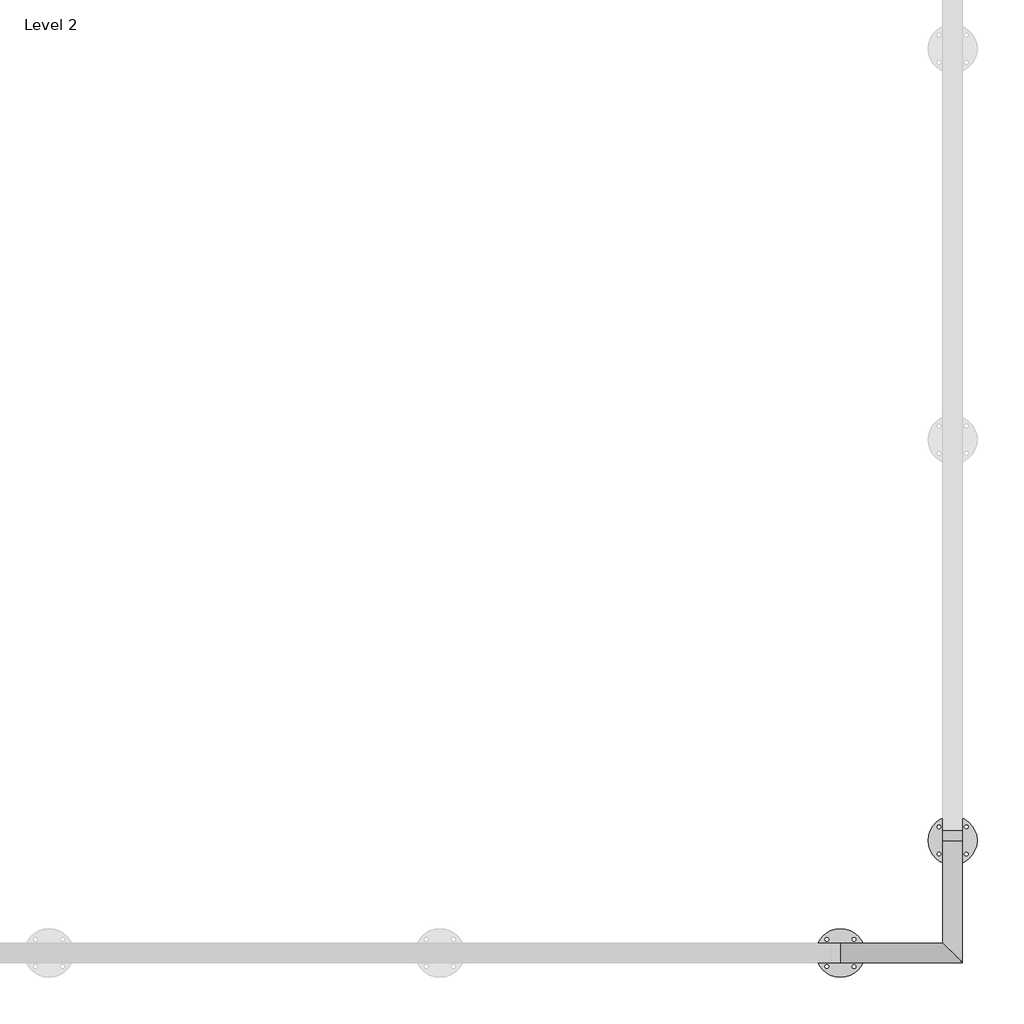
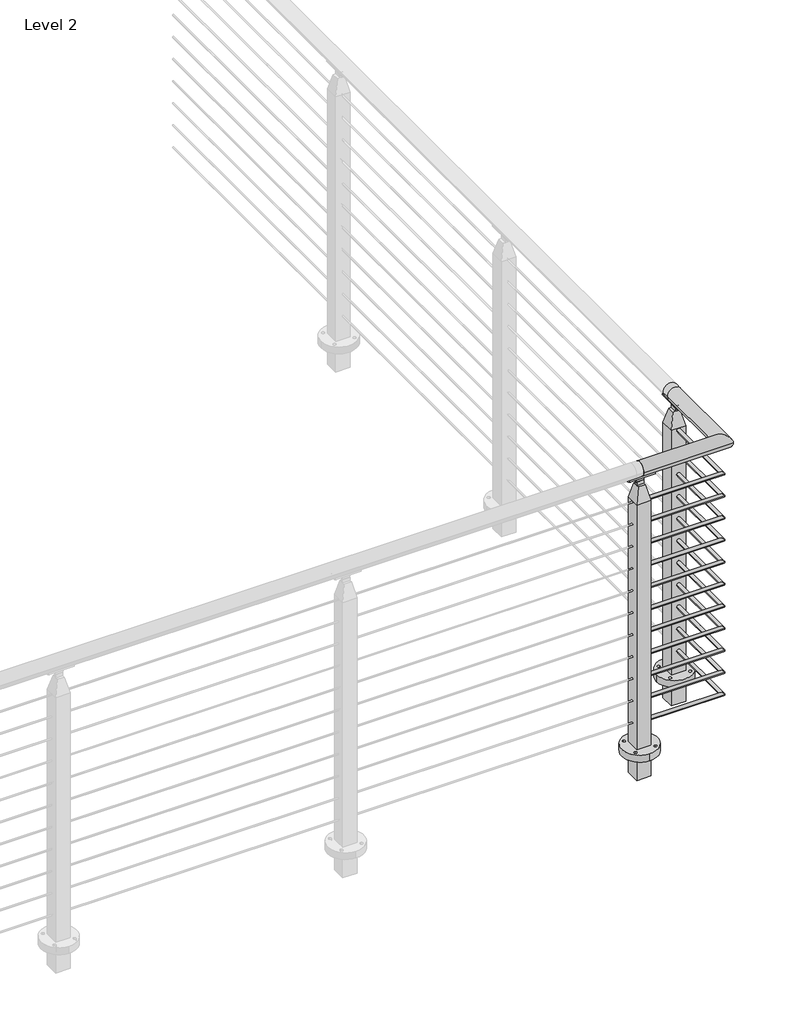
# One storey, part 16 of 17: 1 railing.
"""IFC4 building model written with IfcOpenShell, lengths in millimetres."""

from ifc_helpers import new_model, si_unit, point, frame, frame_2d, origin, place, context, project, spatial, polyline, circle_curve, ellipse_curve, trimmed, segment, composite_curve, outline, extrude, faceted_brep, element, save
from ifc_brep_helpers import plane_surface, cylinder_surface, revolved_surface, advanced_brep

model = new_model("IFC4")

# Units and contexts
model_context = context("Model", 3, world=origin())
ifc_project = project(units=[si_unit("LENGTHUNIT", "METRE", prefix="MILLI")], contexts=[model_context])

# Site, building, storey
site = spatial("IfcSite", under=ifc_project)
building = spatial("IfcBuilding", under=site)
storey = spatial("IfcBuildingStorey", under=building, Name="Level 2", Elevation=3048.0)

# Railing
placement = place(None, origin())
element("IfcRailing", 1, ObjectType="VIVA-CUBE-Cable-Core Mount-Corner", at=placement, inside=storey, context=model_context, shape_type="SolidModel", body=[
    advanced_brep(
    [(70897.8936734, -52130.1426165, 4102.1), (70897.8936734, -52079.3426165, 4102.1), (71215.3936734, -52130.1426165, 4102.1), (71164.5936734, -52079.3426165, 4102.1), (71215.3936734, -51786.8457415, 4102.1), (71164.5936734, -51786.8457415, 4102.1), (71164.5936734, -51812.6426165, 4102.1), (71215.3936734, -51812.6426165, 4102.1)],
    [
        (0, 1, circle_curve(frame((70897.8936734, -52104.7426165, 4102.1), z_axis=(-1.0, 0.0, 0.0), x_axis=(0.0, 1.0, 0.0)), 25.4)),
        (1, 0, circle_curve(frame((70897.8936734, -52104.7426165, 4102.1), z_axis=(-1.0, 0.0, 0.0), x_axis=(0.0, 1.0, 0.0)), 25.4)),
        (0, 2),
        (2, 3, ellipse_curve(frame((71189.9936734, -52104.7426165, 4102.1), z_axis=(-0.7071067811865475, -0.7071067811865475, 0.0), x_axis=(-0.7071067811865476, 0.7071067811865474, 0.0)), 35.9210245, 25.4)),
        (3, 1),
        (3, 2, ellipse_curve(frame((71189.9936734, -52104.7426165, 4102.1), z_axis=(-0.7071067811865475, -0.7071067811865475, 0.0), x_axis=(-0.7071067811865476, 0.7071067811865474, 0.0)), 35.9210245, 25.4)),
        (4, 5, circle_curve(frame((71189.9936734, -51786.8457415, 4102.1), z_axis=(0.0, 1.0, 0.0), x_axis=(-1.0, 0.0, 0.0)), 25.4)),
        (5, 4, circle_curve(frame((71189.9936734, -51786.8457415, 4102.1), z_axis=(0.0, 1.0, 0.0), x_axis=(-1.0, 0.0, 0.0)), 25.4)),
        (6, 7, circle_curve(frame((71189.9936734, -51812.6426165, 4102.1), z_axis=(0.0, 1.0, 0.0), x_axis=(-1.0, 0.0, 0.0)), 25.4)),
        (7, 4),
        (5, 6),
        (7, 6, circle_curve(frame((71189.9936734, -51812.6426165, 4102.1), z_axis=(0.0, 1.0, 0.0), x_axis=(-1.0, 0.0, 0.0)), 25.4)),
        (2, 7),
        (6, 3),
    ],
    [
        plane_surface(frame((70897.8936734, -52104.7426165, 4127.5), z_axis=(-1.0, 0.0, 0.0), x_axis=(0.0, 1.0, 0.0))),
        cylinder_surface(frame((70897.8936734, -52104.7426165, 4102.1), z_axis=(-1.0, 0.0, 0.0), x_axis=(0.0, 1.0, 0.0)), 25.4),
        plane_surface(frame((71189.9936734, -51786.8457415, 4127.5), z_axis=(0.0, 1.0, 0.0), x_axis=(0.0, 0.0, 1.0))),
        cylinder_surface(frame((71189.9936734, -51812.6426165, 4102.1), z_axis=(0.0, -1.0, 0.0), x_axis=(-1.0, 0.0, 0.0)), 25.4),
        cylinder_surface(frame((71189.9936734, -52104.7426165, 4102.1), z_axis=(0.0, -1.0, 0.0), x_axis=(-1.0, 0.0, 0.0)), 25.4),
    ],
    [
        (0, [[1, 2]]),
        (1, [[-1, 3, 4, 5]]),
        (1, [[-2, -5, 6, -3]]),
        (2, [[7, 8]]),
        (3, [[9, 10, -8, 11]]),
        (3, [[12, -11, -7, -10]]),
        (4, [[-4, 13, -9, 14]]),
        (4, [[-6, -14, -12, -13]]),
    ],
),
    advanced_brep(
    [(70897.8936734, -52098.3926165, 3981.45), (70897.8936734, -52111.0926165, 3981.45), (71183.6436734, -52098.3926165, 3981.45), (71196.3436734, -52111.0926165, 3981.45), (71183.6436734, -51812.6426165, 3981.45), (71196.3436734, -51812.6426165, 3981.45)],
    [
        (0, 1, circle_curve(frame((70897.8936734, -52104.7426165, 3981.45), z_axis=(-1.0, 0.0, 0.0), x_axis=(0.0, -1.0, 0.0)), 6.35)),
        (1, 0, circle_curve(frame((70897.8936734, -52104.7426165, 3981.45), z_axis=(-1.0, 0.0, 0.0), x_axis=(0.0, -1.0, 0.0)), 6.35)),
        (0, 2),
        (2, 3, ellipse_curve(frame((71189.9936734, -52104.7426165, 3981.45), z_axis=(-0.7071067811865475, -0.7071067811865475, 0.0), x_axis=(-0.7071067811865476, 0.7071067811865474, 0.0)), 8.9802561, 6.35)),
        (3, 1),
        (3, 2, ellipse_curve(frame((71189.9936734, -52104.7426165, 3981.45), z_axis=(-0.7071067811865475, -0.7071067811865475, 0.0), x_axis=(-0.7071067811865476, 0.7071067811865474, 0.0)), 8.9802561, 6.35)),
        (4, 5, circle_curve(frame((71189.9936734, -51812.6426165, 3981.45), z_axis=(0.0, 1.0, 0.0), x_axis=(1.0, 0.0, 0.0)), 6.35)),
        (5, 4, circle_curve(frame((71189.9936734, -51812.6426165, 3981.45), z_axis=(0.0, 1.0, 0.0), x_axis=(1.0, 0.0, 0.0)), 6.35)),
        (2, 4),
        (5, 3),
    ],
    [
        plane_surface(frame((70897.8936734, -52104.7426165, 3987.8), z_axis=(-1.0, 0.0, 0.0), x_axis=(0.0, 1.0, 0.0))),
        cylinder_surface(frame((70897.8936734, -52104.7426165, 3981.45), z_axis=(-1.0, 0.0, 0.0), x_axis=(0.0, -1.0, 0.0)), 6.35),
        plane_surface(frame((71189.9936734, -51812.6426165, 3987.8), z_axis=(0.0, 1.0, 0.0), x_axis=(0.0, 0.0, 1.0))),
        cylinder_surface(frame((71189.9936734, -52104.7426165, 3981.45), z_axis=(0.0, -1.0, 0.0), x_axis=(1.0, 0.0, 0.0)), 6.35),
    ],
    [
        (0, [[1, 2]]),
        (1, [[-1, 3, 4, 5]]),
        (1, [[-2, -5, 6, -3]]),
        (2, [[7, 8]]),
        (3, [[-4, 9, -8, 10]]),
        (3, [[-6, -10, -7, -9]]),
    ],
),
    advanced_brep(
    [(70897.8936734, -52098.3926165, 3898.9), (70897.8936734, -52111.0926165, 3898.9), (71183.6436734, -52098.3926165, 3898.9), (71196.3436734, -52111.0926165, 3898.9), (71183.6436734, -51812.6426165, 3898.9), (71196.3436734, -51812.6426165, 3898.9)],
    [
        (0, 1, circle_curve(frame((70897.8936734, -52104.7426165, 3898.9), z_axis=(-1.0, 0.0, 0.0), x_axis=(0.0, -1.0, 0.0)), 6.35)),
        (1, 0, circle_curve(frame((70897.8936734, -52104.7426165, 3898.9), z_axis=(-1.0, 0.0, 0.0), x_axis=(0.0, -1.0, 0.0)), 6.35)),
        (0, 2),
        (2, 3, ellipse_curve(frame((71189.9936734, -52104.7426165, 3898.9), z_axis=(-0.7071067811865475, -0.7071067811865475, 0.0), x_axis=(-0.7071067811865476, 0.7071067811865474, 0.0)), 8.9802561, 6.35)),
        (3, 1),
        (3, 2, ellipse_curve(frame((71189.9936734, -52104.7426165, 3898.9), z_axis=(-0.7071067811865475, -0.7071067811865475, 0.0), x_axis=(-0.7071067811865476, 0.7071067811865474, 0.0)), 8.9802561, 6.35)),
        (4, 5, circle_curve(frame((71189.9936734, -51812.6426165, 3898.9), z_axis=(0.0, 1.0, 0.0), x_axis=(1.0, 0.0, 0.0)), 6.35)),
        (5, 4, circle_curve(frame((71189.9936734, -51812.6426165, 3898.9), z_axis=(0.0, 1.0, 0.0), x_axis=(1.0, 0.0, 0.0)), 6.35)),
        (2, 4),
        (5, 3),
    ],
    [
        plane_surface(frame((70897.8936734, -52104.7426165, 3905.25), z_axis=(-1.0, 0.0, 0.0), x_axis=(0.0, 1.0, 0.0))),
        cylinder_surface(frame((70897.8936734, -52104.7426165, 3898.9), z_axis=(-1.0, 0.0, 0.0), x_axis=(0.0, -1.0, 0.0)), 6.35),
        plane_surface(frame((71189.9936734, -51812.6426165, 3905.25), z_axis=(0.0, 1.0, 0.0), x_axis=(0.0, 0.0, 1.0))),
        cylinder_surface(frame((71189.9936734, -52104.7426165, 3898.9), z_axis=(0.0, -1.0, 0.0), x_axis=(1.0, 0.0, 0.0)), 6.35),
    ],
    [
        (0, [[1, 2]]),
        (1, [[-1, 3, 4, 5]]),
        (1, [[-2, -5, 6, -3]]),
        (2, [[7, 8]]),
        (3, [[-4, 9, -8, 10]]),
        (3, [[-6, -10, -7, -9]]),
    ],
),
    advanced_brep(
    [(70897.8936734, -52098.3926165, 3816.35), (70897.8936734, -52111.0926165, 3816.35), (71183.6436734, -52098.3926165, 3816.35), (71196.3436734, -52111.0926165, 3816.35), (71183.6436734, -51812.6426165, 3816.35), (71196.3436734, -51812.6426165, 3816.35)],
    [
        (0, 1, circle_curve(frame((70897.8936734, -52104.7426165, 3816.35), z_axis=(-1.0, 0.0, 0.0), x_axis=(0.0, -1.0, 0.0)), 6.35)),
        (1, 0, circle_curve(frame((70897.8936734, -52104.7426165, 3816.35), z_axis=(-1.0, 0.0, 0.0), x_axis=(0.0, -1.0, 0.0)), 6.35)),
        (0, 2),
        (2, 3, ellipse_curve(frame((71189.9936734, -52104.7426165, 3816.35), z_axis=(-0.7071067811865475, -0.7071067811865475, 0.0), x_axis=(-0.7071067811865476, 0.7071067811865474, 0.0)), 8.9802561, 6.35)),
        (3, 1),
        (3, 2, ellipse_curve(frame((71189.9936734, -52104.7426165, 3816.35), z_axis=(-0.7071067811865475, -0.7071067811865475, 0.0), x_axis=(-0.7071067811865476, 0.7071067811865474, 0.0)), 8.9802561, 6.35)),
        (4, 5, circle_curve(frame((71189.9936734, -51812.6426165, 3816.35), z_axis=(0.0, 1.0, 0.0), x_axis=(1.0, 0.0, 0.0)), 6.35)),
        (5, 4, circle_curve(frame((71189.9936734, -51812.6426165, 3816.35), z_axis=(0.0, 1.0, 0.0), x_axis=(1.0, 0.0, 0.0)), 6.35)),
        (2, 4),
        (5, 3),
    ],
    [
        plane_surface(frame((70897.8936734, -52104.7426165, 3822.7), z_axis=(-1.0, 0.0, 0.0), x_axis=(0.0, 1.0, 0.0))),
        cylinder_surface(frame((70897.8936734, -52104.7426165, 3816.35), z_axis=(-1.0, 0.0, 0.0), x_axis=(0.0, -1.0, 0.0)), 6.35),
        plane_surface(frame((71189.9936734, -51812.6426165, 3822.7), z_axis=(0.0, 1.0, 0.0), x_axis=(0.0, 0.0, 1.0))),
        cylinder_surface(frame((71189.9936734, -52104.7426165, 3816.35), z_axis=(0.0, -1.0, 0.0), x_axis=(1.0, 0.0, 0.0)), 6.35),
    ],
    [
        (0, [[1, 2]]),
        (1, [[-1, 3, 4, 5]]),
        (1, [[-2, -5, 6, -3]]),
        (2, [[7, 8]]),
        (3, [[-4, 9, -8, 10]]),
        (3, [[-6, -10, -7, -9]]),
    ],
),
    advanced_brep(
    [(70897.8936734, -52098.3926165, 3733.8), (70897.8936734, -52111.0926165, 3733.8), (71183.6436734, -52098.3926165, 3733.8), (71196.3436734, -52111.0926165, 3733.8), (71183.6436734, -51812.6426165, 3733.8), (71196.3436734, -51812.6426165, 3733.8)],
    [
        (0, 1, circle_curve(frame((70897.8936734, -52104.7426165, 3733.8), z_axis=(-1.0, 0.0, 0.0), x_axis=(0.0, -1.0, 0.0)), 6.35)),
        (1, 0, circle_curve(frame((70897.8936734, -52104.7426165, 3733.8), z_axis=(-1.0, 0.0, 0.0), x_axis=(0.0, -1.0, 0.0)), 6.35)),
        (0, 2),
        (2, 3, ellipse_curve(frame((71189.9936734, -52104.7426165, 3733.8), z_axis=(-0.7071067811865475, -0.7071067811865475, 0.0), x_axis=(-0.7071067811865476, 0.7071067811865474, 0.0)), 8.9802561, 6.35)),
        (3, 1),
        (3, 2, ellipse_curve(frame((71189.9936734, -52104.7426165, 3733.8), z_axis=(-0.7071067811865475, -0.7071067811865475, 0.0), x_axis=(-0.7071067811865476, 0.7071067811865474, 0.0)), 8.9802561, 6.35)),
        (4, 5, circle_curve(frame((71189.9936734, -51812.6426165, 3733.8), z_axis=(0.0, 1.0, 0.0), x_axis=(1.0, 0.0, 0.0)), 6.35)),
        (5, 4, circle_curve(frame((71189.9936734, -51812.6426165, 3733.8), z_axis=(0.0, 1.0, 0.0), x_axis=(1.0, 0.0, 0.0)), 6.35)),
        (2, 4),
        (5, 3),
    ],
    [
        plane_surface(frame((70897.8936734, -52104.7426165, 3740.15), z_axis=(-1.0, 0.0, 0.0), x_axis=(0.0, 1.0, 0.0))),
        cylinder_surface(frame((70897.8936734, -52104.7426165, 3733.8), z_axis=(-1.0, 0.0, 0.0), x_axis=(0.0, -1.0, 0.0)), 6.35),
        plane_surface(frame((71189.9936734, -51812.6426165, 3740.15), z_axis=(0.0, 1.0, 0.0), x_axis=(0.0, 0.0, 1.0))),
        cylinder_surface(frame((71189.9936734, -52104.7426165, 3733.8), z_axis=(0.0, -1.0, 0.0), x_axis=(1.0, 0.0, 0.0)), 6.35),
    ],
    [
        (0, [[1, 2]]),
        (1, [[-1, 3, 4, 5]]),
        (1, [[-2, -5, 6, -3]]),
        (2, [[7, 8]]),
        (3, [[-4, 9, -8, 10]]),
        (3, [[-6, -10, -7, -9]]),
    ],
),
    advanced_brep(
    [(70897.8936734, -52098.3926165, 3651.25), (70897.8936734, -52111.0926165, 3651.25), (71183.6436734, -52098.3926165, 3651.25), (71196.3436734, -52111.0926165, 3651.25), (71183.6436734, -51812.6426165, 3651.25), (71196.3436734, -51812.6426165, 3651.25)],
    [
        (0, 1, circle_curve(frame((70897.8936734, -52104.7426165, 3651.25), z_axis=(-1.0, 0.0, 0.0), x_axis=(0.0, -1.0, 0.0)), 6.35)),
        (1, 0, circle_curve(frame((70897.8936734, -52104.7426165, 3651.25), z_axis=(-1.0, 0.0, 0.0), x_axis=(0.0, -1.0, 0.0)), 6.35)),
        (0, 2),
        (2, 3, ellipse_curve(frame((71189.9936734, -52104.7426165, 3651.25), z_axis=(-0.7071067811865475, -0.7071067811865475, 0.0), x_axis=(-0.7071067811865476, 0.7071067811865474, 0.0)), 8.9802561, 6.35)),
        (3, 1),
        (3, 2, ellipse_curve(frame((71189.9936734, -52104.7426165, 3651.25), z_axis=(-0.7071067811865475, -0.7071067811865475, 0.0), x_axis=(-0.7071067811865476, 0.7071067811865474, 0.0)), 8.9802561, 6.35)),
        (4, 5, circle_curve(frame((71189.9936734, -51812.6426165, 3651.25), z_axis=(0.0, 1.0, 0.0), x_axis=(1.0, 0.0, 0.0)), 6.35)),
        (5, 4, circle_curve(frame((71189.9936734, -51812.6426165, 3651.25), z_axis=(0.0, 1.0, 0.0), x_axis=(1.0, 0.0, 0.0)), 6.35)),
        (2, 4),
        (5, 3),
    ],
    [
        plane_surface(frame((70897.8936734, -52104.7426165, 3657.6), z_axis=(-1.0, 0.0, 0.0), x_axis=(0.0, 1.0, 0.0))),
        cylinder_surface(frame((70897.8936734, -52104.7426165, 3651.25), z_axis=(-1.0, 0.0, 0.0), x_axis=(0.0, -1.0, 0.0)), 6.35),
        plane_surface(frame((71189.9936734, -51812.6426165, 3657.6), z_axis=(0.0, 1.0, 0.0), x_axis=(0.0, 0.0, 1.0))),
        cylinder_surface(frame((71189.9936734, -52104.7426165, 3651.25), z_axis=(0.0, -1.0, 0.0), x_axis=(1.0, 0.0, 0.0)), 6.35),
    ],
    [
        (0, [[1, 2]]),
        (1, [[-1, 3, 4, 5]]),
        (1, [[-2, -5, 6, -3]]),
        (2, [[7, 8]]),
        (3, [[-4, 9, -8, 10]]),
        (3, [[-6, -10, -7, -9]]),
    ],
),
    advanced_brep(
    [(70897.8936734, -52098.3926165, 3568.7), (70897.8936734, -52111.0926165, 3568.7), (71183.6436734, -52098.3926165, 3568.7), (71196.3436734, -52111.0926165, 3568.7), (71183.6436734, -51812.6426165, 3568.7), (71196.3436734, -51812.6426165, 3568.7)],
    [
        (0, 1, circle_curve(frame((70897.8936734, -52104.7426165, 3568.7), z_axis=(-1.0, 0.0, 0.0), x_axis=(0.0, -1.0, 0.0)), 6.35)),
        (1, 0, circle_curve(frame((70897.8936734, -52104.7426165, 3568.7), z_axis=(-1.0, 0.0, 0.0), x_axis=(0.0, -1.0, 0.0)), 6.35)),
        (0, 2),
        (2, 3, ellipse_curve(frame((71189.9936734, -52104.7426165, 3568.7), z_axis=(-0.7071067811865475, -0.7071067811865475, 0.0), x_axis=(-0.7071067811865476, 0.7071067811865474, 0.0)), 8.9802561, 6.35)),
        (3, 1),
        (3, 2, ellipse_curve(frame((71189.9936734, -52104.7426165, 3568.7), z_axis=(-0.7071067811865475, -0.7071067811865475, 0.0), x_axis=(-0.7071067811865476, 0.7071067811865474, 0.0)), 8.9802561, 6.35)),
        (4, 5, circle_curve(frame((71189.9936734, -51812.6426165, 3568.7), z_axis=(0.0, 1.0, 0.0), x_axis=(1.0, 0.0, 0.0)), 6.35)),
        (5, 4, circle_curve(frame((71189.9936734, -51812.6426165, 3568.7), z_axis=(0.0, 1.0, 0.0), x_axis=(1.0, 0.0, 0.0)), 6.35)),
        (2, 4),
        (5, 3),
    ],
    [
        plane_surface(frame((70897.8936734, -52104.7426165, 3575.05), z_axis=(-1.0, 0.0, 0.0), x_axis=(0.0, 1.0, 0.0))),
        cylinder_surface(frame((70897.8936734, -52104.7426165, 3568.7), z_axis=(-1.0, 0.0, 0.0), x_axis=(0.0, -1.0, 0.0)), 6.35),
        plane_surface(frame((71189.9936734, -51812.6426165, 3575.05), z_axis=(0.0, 1.0, 0.0), x_axis=(0.0, 0.0, 1.0))),
        cylinder_surface(frame((71189.9936734, -52104.7426165, 3568.7), z_axis=(0.0, -1.0, 0.0), x_axis=(1.0, 0.0, 0.0)), 6.35),
    ],
    [
        (0, [[1, 2]]),
        (1, [[-1, 3, 4, 5]]),
        (1, [[-2, -5, 6, -3]]),
        (2, [[7, 8]]),
        (3, [[-4, 9, -8, 10]]),
        (3, [[-6, -10, -7, -9]]),
    ],
),
    advanced_brep(
    [(70897.8936734, -52098.3926165, 3486.15), (70897.8936734, -52111.0926165, 3486.15), (71183.6436734, -52098.3926165, 3486.15), (71196.3436734, -52111.0926165, 3486.15), (71183.6436734, -51812.6426165, 3486.15), (71196.3436734, -51812.6426165, 3486.15)],
    [
        (0, 1, circle_curve(frame((70897.8936734, -52104.7426165, 3486.15), z_axis=(-1.0, 0.0, 0.0), x_axis=(0.0, -1.0, 0.0)), 6.35)),
        (1, 0, circle_curve(frame((70897.8936734, -52104.7426165, 3486.15), z_axis=(-1.0, 0.0, 0.0), x_axis=(0.0, -1.0, 0.0)), 6.35)),
        (0, 2),
        (2, 3, ellipse_curve(frame((71189.9936734, -52104.7426165, 3486.15), z_axis=(-0.7071067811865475, -0.7071067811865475, 0.0), x_axis=(-0.7071067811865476, 0.7071067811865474, 0.0)), 8.9802561, 6.35)),
        (3, 1),
        (3, 2, ellipse_curve(frame((71189.9936734, -52104.7426165, 3486.15), z_axis=(-0.7071067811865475, -0.7071067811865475, 0.0), x_axis=(-0.7071067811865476, 0.7071067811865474, 0.0)), 8.9802561, 6.35)),
        (4, 5, circle_curve(frame((71189.9936734, -51812.6426165, 3486.15), z_axis=(0.0, 1.0, 0.0), x_axis=(1.0, 0.0, 0.0)), 6.35)),
        (5, 4, circle_curve(frame((71189.9936734, -51812.6426165, 3486.15), z_axis=(0.0, 1.0, 0.0), x_axis=(1.0, 0.0, 0.0)), 6.35)),
        (2, 4),
        (5, 3),
    ],
    [
        plane_surface(frame((70897.8936734, -52104.7426165, 3492.5), z_axis=(-1.0, 0.0, 0.0), x_axis=(0.0, 1.0, 0.0))),
        cylinder_surface(frame((70897.8936734, -52104.7426165, 3486.15), z_axis=(-1.0, 0.0, 0.0), x_axis=(0.0, -1.0, 0.0)), 6.35),
        plane_surface(frame((71189.9936734, -51812.6426165, 3492.5), z_axis=(0.0, 1.0, 0.0), x_axis=(0.0, 0.0, 1.0))),
        cylinder_surface(frame((71189.9936734, -52104.7426165, 3486.15), z_axis=(0.0, -1.0, 0.0), x_axis=(1.0, 0.0, 0.0)), 6.35),
    ],
    [
        (0, [[1, 2]]),
        (1, [[-1, 3, 4, 5]]),
        (1, [[-2, -5, 6, -3]]),
        (2, [[7, 8]]),
        (3, [[-4, 9, -8, 10]]),
        (3, [[-6, -10, -7, -9]]),
    ],
),
    advanced_brep(
    [(70897.8936734, -52098.3926165, 3403.6), (70897.8936734, -52111.0926165, 3403.6), (71183.6436734, -52098.3926165, 3403.6), (71196.3436734, -52111.0926165, 3403.6), (71183.6436734, -51812.6426165, 3403.6), (71196.3436734, -51812.6426165, 3403.6)],
    [
        (0, 1, circle_curve(frame((70897.8936734, -52104.7426165, 3403.6), z_axis=(-1.0, 0.0, 0.0), x_axis=(0.0, -1.0, 0.0)), 6.35)),
        (1, 0, circle_curve(frame((70897.8936734, -52104.7426165, 3403.6), z_axis=(-1.0, 0.0, 0.0), x_axis=(0.0, -1.0, 0.0)), 6.35)),
        (0, 2),
        (2, 3, ellipse_curve(frame((71189.9936734, -52104.7426165, 3403.6), z_axis=(-0.7071067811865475, -0.7071067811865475, 0.0), x_axis=(-0.7071067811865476, 0.7071067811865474, 0.0)), 8.9802561, 6.35)),
        (3, 1),
        (3, 2, ellipse_curve(frame((71189.9936734, -52104.7426165, 3403.6), z_axis=(-0.7071067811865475, -0.7071067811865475, 0.0), x_axis=(-0.7071067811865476, 0.7071067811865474, 0.0)), 8.9802561, 6.35)),
        (4, 5, circle_curve(frame((71189.9936734, -51812.6426165, 3403.6), z_axis=(0.0, 1.0, 0.0), x_axis=(1.0, 0.0, 0.0)), 6.35)),
        (5, 4, circle_curve(frame((71189.9936734, -51812.6426165, 3403.6), z_axis=(0.0, 1.0, 0.0), x_axis=(1.0, 0.0, 0.0)), 6.35)),
        (2, 4),
        (5, 3),
    ],
    [
        plane_surface(frame((70897.8936734, -52104.7426165, 3409.95), z_axis=(-1.0, 0.0, 0.0), x_axis=(0.0, 1.0, 0.0))),
        cylinder_surface(frame((70897.8936734, -52104.7426165, 3403.6), z_axis=(-1.0, 0.0, 0.0), x_axis=(0.0, -1.0, 0.0)), 6.35),
        plane_surface(frame((71189.9936734, -51812.6426165, 3409.95), z_axis=(0.0, 1.0, 0.0), x_axis=(0.0, 0.0, 1.0))),
        cylinder_surface(frame((71189.9936734, -52104.7426165, 3403.6), z_axis=(0.0, -1.0, 0.0), x_axis=(1.0, 0.0, 0.0)), 6.35),
    ],
    [
        (0, [[1, 2]]),
        (1, [[-1, 3, 4, 5]]),
        (1, [[-2, -5, 6, -3]]),
        (2, [[7, 8]]),
        (3, [[-4, 9, -8, 10]]),
        (3, [[-6, -10, -7, -9]]),
    ],
),
    advanced_brep(
    [(70897.8936734, -52098.3926165, 3321.05), (70897.8936734, -52111.0926165, 3321.05), (71183.6436734, -52098.3926165, 3321.05), (71196.3436734, -52111.0926165, 3321.05), (71183.6436734, -51812.6426165, 3321.05), (71196.3436734, -51812.6426165, 3321.05)],
    [
        (0, 1, circle_curve(frame((70897.8936734, -52104.7426165, 3321.05), z_axis=(-1.0, 0.0, 0.0), x_axis=(0.0, -1.0, 0.0)), 6.35)),
        (1, 0, circle_curve(frame((70897.8936734, -52104.7426165, 3321.05), z_axis=(-1.0, 0.0, 0.0), x_axis=(0.0, -1.0, 0.0)), 6.35)),
        (0, 2),
        (2, 3, ellipse_curve(frame((71189.9936734, -52104.7426165, 3321.05), z_axis=(-0.7071067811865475, -0.7071067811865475, 0.0), x_axis=(-0.7071067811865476, 0.7071067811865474, 0.0)), 8.9802561, 6.35)),
        (3, 1),
        (3, 2, ellipse_curve(frame((71189.9936734, -52104.7426165, 3321.05), z_axis=(-0.7071067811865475, -0.7071067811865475, 0.0), x_axis=(-0.7071067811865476, 0.7071067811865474, 0.0)), 8.9802561, 6.35)),
        (4, 5, circle_curve(frame((71189.9936734, -51812.6426165, 3321.05), z_axis=(0.0, 1.0, 0.0), x_axis=(1.0, 0.0, 0.0)), 6.35)),
        (5, 4, circle_curve(frame((71189.9936734, -51812.6426165, 3321.05), z_axis=(0.0, 1.0, 0.0), x_axis=(1.0, 0.0, 0.0)), 6.35)),
        (2, 4),
        (5, 3),
    ],
    [
        plane_surface(frame((70897.8936734, -52104.7426165, 3327.4), z_axis=(-1.0, 0.0, 0.0), x_axis=(0.0, 1.0, 0.0))),
        cylinder_surface(frame((70897.8936734, -52104.7426165, 3321.05), z_axis=(-1.0, 0.0, 0.0), x_axis=(0.0, -1.0, 0.0)), 6.35),
        plane_surface(frame((71189.9936734, -51812.6426165, 3327.4), z_axis=(0.0, 1.0, 0.0), x_axis=(0.0, 0.0, 1.0))),
        cylinder_surface(frame((71189.9936734, -52104.7426165, 3321.05), z_axis=(0.0, -1.0, 0.0), x_axis=(1.0, 0.0, 0.0)), 6.35),
    ],
    [
        (0, [[1, 2]]),
        (1, [[-1, 3, 4, 5]]),
        (1, [[-2, -5, 6, -3]]),
        (2, [[7, 8]]),
        (3, [[-4, 9, -8, 10]]),
        (3, [[-6, -10, -7, -9]]),
    ],
),
    advanced_brep(
    [(70897.8936734, -52098.3926165, 3238.5), (70897.8936734, -52111.0926165, 3238.5), (71183.6436734, -52098.3926165, 3238.5), (71196.3436734, -52111.0926165, 3238.5), (71183.6436734, -51812.6426165, 3238.5), (71196.3436734, -51812.6426165, 3238.5)],
    [
        (0, 1, circle_curve(frame((70897.8936734, -52104.7426165, 3238.5), z_axis=(-1.0, 0.0, 0.0), x_axis=(0.0, -1.0, 0.0)), 6.35)),
        (1, 0, circle_curve(frame((70897.8936734, -52104.7426165, 3238.5), z_axis=(-1.0, 0.0, 0.0), x_axis=(0.0, -1.0, 0.0)), 6.35)),
        (0, 2),
        (2, 3, ellipse_curve(frame((71189.9936734, -52104.7426165, 3238.5), z_axis=(-0.7071067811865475, -0.7071067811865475, 0.0), x_axis=(-0.7071067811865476, 0.7071067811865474, 0.0)), 8.9802561, 6.35)),
        (3, 1),
        (3, 2, ellipse_curve(frame((71189.9936734, -52104.7426165, 3238.5), z_axis=(-0.7071067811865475, -0.7071067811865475, 0.0), x_axis=(-0.7071067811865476, 0.7071067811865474, 0.0)), 8.9802561, 6.35)),
        (4, 5, circle_curve(frame((71189.9936734, -51812.6426165, 3238.5), z_axis=(0.0, 1.0, 0.0), x_axis=(1.0, 0.0, 0.0)), 6.35)),
        (5, 4, circle_curve(frame((71189.9936734, -51812.6426165, 3238.5), z_axis=(0.0, 1.0, 0.0), x_axis=(1.0, 0.0, 0.0)), 6.35)),
        (2, 4),
        (5, 3),
    ],
    [
        plane_surface(frame((70897.8936734, -52104.7426165, 3244.85), z_axis=(-1.0, 0.0, 0.0), x_axis=(0.0, 1.0, 0.0))),
        cylinder_surface(frame((70897.8936734, -52104.7426165, 3238.5), z_axis=(-1.0, 0.0, 0.0), x_axis=(0.0, -1.0, 0.0)), 6.35),
        plane_surface(frame((71189.9936734, -51812.6426165, 3244.85), z_axis=(0.0, 1.0, 0.0), x_axis=(0.0, 0.0, 1.0))),
        cylinder_surface(frame((71189.9936734, -52104.7426165, 3238.5), z_axis=(0.0, -1.0, 0.0), x_axis=(1.0, 0.0, 0.0)), 6.35),
    ],
    [
        (0, [[1, 2]]),
        (1, [[-1, 3, 4, 5]]),
        (1, [[-2, -5, 6, -3]]),
        (2, [[7, 8]]),
        (3, [[-4, 9, -8, 10]]),
        (3, [[-6, -10, -7, -9]]),
    ],
),
    advanced_brep(
    [(70897.8936734, -52098.3926165, 3155.95), (70897.8936734, -52111.0926165, 3155.95), (71183.6436734, -52098.3926165, 3155.95), (71196.3436734, -52111.0926165, 3155.95), (71183.6436734, -51812.6426165, 3155.95), (71196.3436734, -51812.6426165, 3155.95)],
    [
        (0, 1, circle_curve(frame((70897.8936734, -52104.7426165, 3155.95), z_axis=(-1.0, 0.0, 0.0), x_axis=(0.0, -1.0, 0.0)), 6.35)),
        (1, 0, circle_curve(frame((70897.8936734, -52104.7426165, 3155.95), z_axis=(-1.0, 0.0, 0.0), x_axis=(0.0, -1.0, 0.0)), 6.35)),
        (0, 2),
        (2, 3, ellipse_curve(frame((71189.9936734, -52104.7426165, 3155.95), z_axis=(-0.7071067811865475, -0.7071067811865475, 0.0), x_axis=(-0.7071067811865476, 0.7071067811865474, 0.0)), 8.9802561, 6.35)),
        (3, 1),
        (3, 2, ellipse_curve(frame((71189.9936734, -52104.7426165, 3155.95), z_axis=(-0.7071067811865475, -0.7071067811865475, 0.0), x_axis=(-0.7071067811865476, 0.7071067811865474, 0.0)), 8.9802561, 6.35)),
        (4, 5, circle_curve(frame((71189.9936734, -51812.6426165, 3155.95), z_axis=(0.0, 1.0, 0.0), x_axis=(1.0, 0.0, 0.0)), 6.35)),
        (5, 4, circle_curve(frame((71189.9936734, -51812.6426165, 3155.95), z_axis=(0.0, 1.0, 0.0), x_axis=(1.0, 0.0, 0.0)), 6.35)),
        (2, 4),
        (5, 3),
    ],
    [
        plane_surface(frame((70897.8936734, -52104.7426165, 3162.3), z_axis=(-1.0, 0.0, 0.0), x_axis=(0.0, 1.0, 0.0))),
        cylinder_surface(frame((70897.8936734, -52104.7426165, 3155.95), z_axis=(-1.0, 0.0, 0.0), x_axis=(0.0, -1.0, 0.0)), 6.35),
        plane_surface(frame((71189.9936734, -51812.6426165, 3162.3), z_axis=(0.0, 1.0, 0.0), x_axis=(0.0, 0.0, 1.0))),
        cylinder_surface(frame((71189.9936734, -52104.7426165, 3155.95), z_axis=(0.0, -1.0, 0.0), x_axis=(1.0, 0.0, 0.0)), 6.35),
    ],
    [
        (0, [[1, 2]]),
        (1, [[-1, 3, 4, 5]]),
        (1, [[-2, -5, 6, -3]]),
        (2, [[7, 8]]),
        (3, [[-4, 9, -8, 10]]),
        (3, [[-6, -10, -7, -9]]),
    ],
),
    extrude(outline(composite_curve([segment(trimmed(circle_curve(frame_2d((71189.9936734, -51812.2457415)), 63.5), [point((71253.4936734, -51812.2457415))], [point((71126.4936734, -51812.2457415))], False, "CARTESIAN"), True, "CONTINUOUS"), segment(trimmed(circle_curve(frame_2d((71189.9936734, -51812.2457415)), 63.5), [point((71126.4936734, -51812.2457415))], [point((71253.4936734, -51812.2457415))], False, "CARTESIAN"), True, "CONTINUOUS")], self_intersect=False), holes=[composite_curve([segment(trimmed(circle_curve(frame_2d((71225.4634173, -51847.7154854)), 4.7625), [point((71230.2259173, -51847.7154854))], [point((71220.7009173, -51847.7154854))], True, "CARTESIAN"), True, "CONTINUOUS"), segment(trimmed(circle_curve(frame_2d((71225.4634173, -51847.7154854)), 4.7625), [point((71220.7009173, -51847.7154854))], [point((71230.2259173, -51847.7154854))], True, "CARTESIAN"), True, "CONTINUOUS")], self_intersect=False), composite_curve([segment(trimmed(circle_curve(frame_2d((71154.5239295, -51847.7154854)), 4.7625), [point((71159.2864295, -51847.7154854))], [point((71149.7614295, -51847.7154854))], True, "CARTESIAN"), True, "CONTINUOUS"), segment(trimmed(circle_curve(frame_2d((71154.5239295, -51847.7154854)), 4.7625), [point((71149.7614295, -51847.7154854))], [point((71159.2864295, -51847.7154854))], True, "CARTESIAN"), True, "CONTINUOUS")], self_intersect=False), composite_curve([segment(trimmed(circle_curve(frame_2d((71225.4634173, -51776.7759977)), 4.7625), [point((71230.2259173, -51776.7759977))], [point((71220.7009173, -51776.7759977))], True, "CARTESIAN"), True, "CONTINUOUS"), segment(trimmed(circle_curve(frame_2d((71225.4634173, -51776.7759977)), 4.7625), [point((71220.7009173, -51776.7759977))], [point((71230.2259173, -51776.7759977))], True, "CARTESIAN"), True, "CONTINUOUS")], self_intersect=False), composite_curve([segment(trimmed(circle_curve(frame_2d((71154.5239295, -51776.7759977)), 4.7625), [point((71159.2864295, -51776.7759977))], [point((71149.7614295, -51776.7759977))], True, "CARTESIAN"), True, "CONTINUOUS"), segment(trimmed(circle_curve(frame_2d((71154.5239295, -51776.7759977)), 4.7625), [point((71149.7614295, -51776.7759977))], [point((71159.2864295, -51776.7759977))], True, "CARTESIAN"), True, "CONTINUOUS")], self_intersect=False)]), frame((0.0, 0.0, 3048.0), z_axis=(0.0, 0.0, 1.0), x_axis=(1.0, 0.0, 0.0)), (0.0, 0.0, 1.0), 25.4),
    faceted_brep([(71177.2936734, -51799.5457415, 4045.2902749), (71177.2936734, -51824.9457415, 4045.2902749), (71186.0249234, -51824.9457415, 4045.2902749), (71186.0249234, -51799.5457415, 4045.2902749), (71202.6936734, -51824.9457415, 4045.2902749), (71202.6936734, -51799.5457415, 4045.2902749), (71193.9624234, -51799.5457415, 4045.2902749), (71193.9624234, -51824.9457415, 4045.2902749), (71164.5936734, -51786.8457415, 3989.1347854), (71215.3936734, -51786.8457415, 3989.1347854), (71164.5936734, -51837.6457415, 3989.1347854), (71215.3936734, -51837.6457415, 3989.1347854), (71164.5936734, -51786.8457415, 2959.1), (71215.3936734, -51786.8457415, 2959.1), (71215.3936734, -51837.6457415, 2959.1), (71164.5936734, -51837.6457415, 2959.1), (71193.9624234, -51824.9457415, 4057.3306013), (71193.9624234, -51799.5457415, 4057.3306013), (71186.0249234, -51799.5457415, 4057.3306013), (71186.0249234, -51824.9457415, 4057.3306013)], [[[0, 1, 2, 3]], [[4, 5, 6, 7]], [[8, 0, 3, 6, 5, 9]], [[1, 0, 8, 10]], [[1, 10, 11, 4, 7, 2]], [[5, 4, 11, 9]], [[12, 13, 14, 15]], [[12, 15, 10, 8]], [[15, 14, 11, 10]], [[14, 13, 9, 11]], [[13, 12, 8, 9]], [[16, 17, 18, 19]], [[17, 16, 7, 6]], [[18, 17, 6, 3]], [[19, 18, 3, 2]], [[16, 19, 2, 7]]]),
    extrude(outline(composite_curve([segment(trimmed(circle_curve(frame_2d((4102.1433184, 71189.896945)), 25.4345159), [point((4080.0284941, 71202.4607479))], [point((4079.9335733, 71177.5017113))], True, "CARTESIAN"), True, "CONTINUOUS"), segment(trimmed(circle_curve(frame_2d((4077.4310885, 71176.2570582)), 2.7949225), [point((4079.9335733, 71177.5017113))], [point((4075.0585031, 71174.7797531))], False, "CARTESIAN"), True, "CONTINUOUS"), segment(trimmed(circle_curve(frame_2d((4102.905945, 71190.0304081)), 31.75), [point((4075.0585031, 71174.7797531))], [point((4075.6392616, 71206.2966454))], False, "CARTESIAN"), True, "CONTINUOUS"), segment(trimmed(circle_curve(frame_2d((4077.5101807, 71204.0083056)), 2.9558141), [point((4075.6392616, 71206.2966454))], [point((4080.0284941, 71202.4607479))], False, "CARTESIAN"), True, "CONTINUOUS")], self_intersect=False)), frame((0.0, -51857.4831415, 0.0), z_axis=(0.0, 1.0, 0.0), x_axis=(0.0, 0.0, 1.0)), (0.0, 0.0, 1.0), 90.4748),
    advanced_brep(
    [(71187.4536734, -51785.1778267, 4071.3685171), (71187.4536734, -51799.5457415, 4057.0006022), (71187.4536734, -51824.9457415, 4057.0006022), (71187.4536734, -51839.3136564, 4071.3685171), (71192.5336734, -51785.1778267, 4071.3685171), (71192.5336734, -51839.3136564, 4071.3685171), (71192.5336734, -51824.9457415, 4057.0006022), (71192.5336734, -51799.5457415, 4057.0006022)],
    [
        (0, 1, circle_curve(frame((71187.4536734, -51785.1778267, 4057.0006022), z_axis=(1.0, 0.0, 0.0), x_axis=(0.0, -1.0, 0.0)), 14.3679149)),
        (1, 2, circle_curve(frame((71187.4536734, -51812.2457415, 4057.0006022), z_axis=(-1.0, 0.0, 0.0), x_axis=(0.0, -1.0, 0.0)), 12.7)),
        (2, 3, circle_curve(frame((71187.4536734, -51839.3136564, 4057.0006022), z_axis=(1.0, 0.0, 0.0), x_axis=(0.0, -1.0, 0.0)), 14.3679149)),
        (3, 0),
        (4, 5),
        (5, 6, circle_curve(frame((71192.5336734, -51839.3136564, 4057.0006022), z_axis=(-1.0, 0.0, 0.0), x_axis=(0.0, -1.0, 0.0)), 14.3679149)),
        (6, 7, circle_curve(frame((71192.5336734, -51812.2457415, 4057.0006022), z_axis=(1.0, 0.0, 0.0), x_axis=(0.0, -1.0, 0.0)), 12.7)),
        (7, 4, circle_curve(frame((71192.5336734, -51785.1778267, 4057.0006022), z_axis=(-1.0, 0.0, 0.0), x_axis=(0.0, -1.0, 0.0)), 14.3679149)),
        (0, 4),
        (7, 1),
        (6, 2),
        (5, 3),
    ],
    [
        plane_surface(frame((71187.4536734, -51799.5457415, 4057.0006022), z_axis=(-1.0, 0.0, 0.0), x_axis=(0.0, 0.0, -1.0))),
        plane_surface(frame((71192.5336734, -51799.5457415, 4057.0006022), z_axis=(1.0, 0.0, 0.0), x_axis=(0.0, 0.0, 1.0))),
        revolved_surface(polyline([(71192.5336734, -51799.5457416, 4057.0006022), (71187.4536734, -51799.5457416, 4057.0006022)]), (71192.5336734, -51785.1778267, 4057.0006022), (1.0, 0.0, 0.0)),
        cylinder_surface(frame((71192.5336734, -51812.2457415, 4057.0006022), z_axis=(-1.0, 0.0, 0.0), x_axis=(0.0, -1.0, 0.0)), 12.7),
        revolved_surface(polyline([(71192.5336734, -51853.6815713, 4057.0006022), (71187.4536734, -51853.6815713, 4057.0006022)]), (71192.5336734, -51839.3136564, 4057.0006022), (1.0, 0.0, 0.0)),
        plane_surface(frame((71187.4536734, -51839.3136564, 4071.3685171), z_axis=(0.0, 0.0, 1.0), x_axis=(1.0, 0.0, 0.0))),
    ],
    [
        (0, [[1, 2, 3, 4]]),
        (1, [[5, 6, 7, 8]]),
        (2, [[-1, 9, -8, 10]]),
        (3, [[-2, -10, -7, 11]]),
        (4, [[-3, -11, -6, 12]]),
        (5, [[-4, -12, -5, -9]]),
    ],
),
    extrude(outline(composite_curve([segment(trimmed(circle_curve(frame_2d((70898.2905484, -52104.7426165)), 63.5), [point((70898.2905484, -52168.2426165))], [point((70898.2905484, -52041.2426165))], False, "CARTESIAN"), True, "CONTINUOUS"), segment(trimmed(circle_curve(frame_2d((70898.2905484, -52104.7426165)), 63.5), [point((70898.2905484, -52041.2426165))], [point((70898.2905484, -52168.2426165))], False, "CARTESIAN"), True, "CONTINUOUS")], self_intersect=False), holes=[composite_curve([segment(trimmed(circle_curve(frame_2d((70862.8208045, -52140.2123604)), 4.7625), [point((70862.8208045, -52144.9748604))], [point((70862.8208045, -52135.4498604))], True, "CARTESIAN"), True, "CONTINUOUS"), segment(trimmed(circle_curve(frame_2d((70862.8208045, -52140.2123604)), 4.7625), [point((70862.8208045, -52135.4498604))], [point((70862.8208045, -52144.9748604))], True, "CARTESIAN"), True, "CONTINUOUS")], self_intersect=False), composite_curve([segment(trimmed(circle_curve(frame_2d((70862.8208045, -52069.2728727)), 4.7625), [point((70862.8208045, -52074.0353727))], [point((70862.8208045, -52064.5103727))], True, "CARTESIAN"), True, "CONTINUOUS"), segment(trimmed(circle_curve(frame_2d((70862.8208045, -52069.2728727)), 4.7625), [point((70862.8208045, -52064.5103727))], [point((70862.8208045, -52074.0353727))], True, "CARTESIAN"), True, "CONTINUOUS")], self_intersect=False), composite_curve([segment(trimmed(circle_curve(frame_2d((70933.7602923, -52140.2123604)), 4.7625), [point((70933.7602923, -52144.9748604))], [point((70933.7602923, -52135.4498604))], True, "CARTESIAN"), True, "CONTINUOUS"), segment(trimmed(circle_curve(frame_2d((70933.7602923, -52140.2123604)), 4.7625), [point((70933.7602923, -52135.4498604))], [point((70933.7602923, -52144.9748604))], True, "CARTESIAN"), True, "CONTINUOUS")], self_intersect=False), composite_curve([segment(trimmed(circle_curve(frame_2d((70933.7602923, -52069.2728727)), 4.7625), [point((70933.7602923, -52074.0353727))], [point((70933.7602923, -52064.5103727))], True, "CARTESIAN"), True, "CONTINUOUS"), segment(trimmed(circle_curve(frame_2d((70933.7602923, -52069.2728727)), 4.7625), [point((70933.7602923, -52064.5103727))], [point((70933.7602923, -52074.0353727))], True, "CARTESIAN"), True, "CONTINUOUS")], self_intersect=False)]), frame((0.0, 0.0, 3048.0), z_axis=(0.0, 0.0, 1.0), x_axis=(1.0, 0.0, 0.0)), (0.0, 0.0, 1.0), 25.4),
    faceted_brep([(70910.9905484, -52092.0426165, 4045.2902749), (70885.5905484, -52092.0426165, 4045.2902749), (70885.5905484, -52100.7738665, 4045.2902749), (70910.9905484, -52100.7738665, 4045.2902749), (70885.5905484, -52117.4426165, 4045.2902749), (70910.9905484, -52117.4426165, 4045.2902749), (70910.9905484, -52108.7113665, 4045.2902749), (70885.5905484, -52108.7113665, 4045.2902749), (70923.6905484, -52079.3426165, 3989.1347854), (70923.6905484, -52130.1426165, 3989.1347854), (70872.8905484, -52079.3426165, 3989.1347854), (70872.8905484, -52130.1426165, 3989.1347854), (70923.6905484, -52079.3426165, 2959.1), (70923.6905484, -52130.1426165, 2959.1), (70872.8905484, -52130.1426165, 2959.1), (70872.8905484, -52079.3426165, 2959.1), (70885.5905484, -52108.7113665, 4057.3306013), (70910.9905484, -52108.7113665, 4057.3306013), (70910.9905484, -52100.7738665, 4057.3306013), (70885.5905484, -52100.7738665, 4057.3306013)], [[[0, 1, 2, 3]], [[4, 5, 6, 7]], [[8, 0, 3, 6, 5, 9]], [[1, 0, 8, 10]], [[1, 10, 11, 4, 7, 2]], [[5, 4, 11, 9]], [[12, 13, 14, 15]], [[12, 15, 10, 8]], [[15, 14, 11, 10]], [[14, 13, 9, 11]], [[13, 12, 8, 9]], [[16, 17, 18, 19]], [[17, 16, 7, 6]], [[18, 17, 6, 3]], [[19, 18, 3, 2]], [[16, 19, 2, 7]]]),
    extrude(outline(composite_curve([segment(trimmed(circle_curve(frame_2d((-52104.6458882, 4102.1433184)), 25.4345159), [point((-52117.2096911, 4080.0284941))], [point((-52092.2506544, 4079.9335733))], True, "CARTESIAN"), True, "CONTINUOUS"), segment(trimmed(circle_curve(frame_2d((-52091.0060013, 4077.4310885)), 2.7949225), [point((-52092.2506544, 4079.9335733))], [point((-52089.5286962, 4075.0585031))], False, "CARTESIAN"), True, "CONTINUOUS"), segment(trimmed(circle_curve(frame_2d((-52104.7793513, 4102.905945)), 31.75), [point((-52089.5286962, 4075.0585031))], [point((-52121.0455885, 4075.6392616))], False, "CARTESIAN"), True, "CONTINUOUS"), segment(trimmed(circle_curve(frame_2d((-52118.7572487, 4077.5101807)), 2.9558141), [point((-52121.0455885, 4075.6392616))], [point((-52117.2096911, 4080.0284941))], False, "CARTESIAN"), True, "CONTINUOUS")], self_intersect=False)), frame((70853.0531484, 0.0, 0.0), z_axis=(1.0, 0.0, 0.0), x_axis=(0.0, 1.0, 0.0)), (0.0, 0.0, 1.0), 90.4748),
    advanced_brep(
    [(70925.3584633, -52102.2026165, 4071.3685171), (70910.9905484, -52102.2026165, 4057.0006022), (70885.5905484, -52102.2026165, 4057.0006022), (70871.2226335, -52102.2026165, 4071.3685171), (70925.3584633, -52107.2826165, 4071.3685171), (70871.2226335, -52107.2826165, 4071.3685171), (70885.5905484, -52107.2826165, 4057.0006022), (70910.9905484, -52107.2826165, 4057.0006022)],
    [
        (0, 1, circle_curve(frame((70925.3584633, -52102.2026165, 4057.0006022), z_axis=(0.0, -1.0, 0.0), x_axis=(-1.0, 0.0, 0.0)), 14.3679149)),
        (1, 2, circle_curve(frame((70898.2905484, -52102.2026165, 4057.0006022), z_axis=(0.0, 1.0, 0.0), x_axis=(-1.0, 0.0, 0.0)), 12.7)),
        (2, 3, circle_curve(frame((70871.2226335, -52102.2026165, 4057.0006022), z_axis=(0.0, -1.0, 0.0), x_axis=(-1.0, 0.0, 0.0)), 14.3679149)),
        (3, 0),
        (4, 5),
        (5, 6, circle_curve(frame((70871.2226335, -52107.2826165, 4057.0006022), z_axis=(0.0, 1.0, 0.0), x_axis=(-1.0, 0.0, 0.0)), 14.3679149)),
        (6, 7, circle_curve(frame((70898.2905484, -52107.2826165, 4057.0006022), z_axis=(0.0, -1.0, 0.0), x_axis=(-1.0, 0.0, 0.0)), 12.7)),
        (7, 4, circle_curve(frame((70925.3584633, -52107.2826165, 4057.0006022), z_axis=(0.0, 1.0, 0.0), x_axis=(-1.0, 0.0, 0.0)), 14.3679149)),
        (0, 4),
        (7, 1),
        (6, 2),
        (5, 3),
    ],
    [
        plane_surface(frame((70910.9905484, -52102.2026165, 4057.0006022), z_axis=(0.0, 1.0, 0.0), x_axis=(0.0, 0.0, -1.0))),
        plane_surface(frame((70910.9905484, -52107.2826165, 4057.0006022), z_axis=(0.0, -1.0, 0.0), x_axis=(0.0, 0.0, 1.0))),
        revolved_surface(polyline([(70910.9905484, -52107.2826165, 4057.0006022), (70910.9905484, -52102.2026165, 4057.0006022)]), (70925.3584633, -52107.2826165, 4057.0006022), (0.0, -1.0, 0.0)),
        cylinder_surface(frame((70898.2905484, -52107.2826165, 4057.0006022), z_axis=(0.0, 1.0, 0.0), x_axis=(-1.0, 0.0, 0.0)), 12.7),
        revolved_surface(polyline([(70856.8547186, -52107.2826165, 4057.0006022), (70856.8547186, -52102.2026165, 4057.0006022)]), (70871.2226335, -52107.2826165, 4057.0006022), (0.0, -1.0, 0.0)),
        plane_surface(frame((70871.2226335, -52102.2026165, 4071.3685171), z_axis=(0.0, 0.0, 1.0), x_axis=(0.0, -1.0, 0.0))),
    ],
    [
        (0, [[1, 2, 3, 4]]),
        (1, [[5, 6, 7, 8]]),
        (2, [[-1, 9, -8, 10]]),
        (3, [[-2, -10, -7, 11]]),
        (4, [[-3, -11, -6, 12]]),
        (5, [[-4, -12, -5, -9]]),
    ],
),
])

save(model, "model.ifc")
